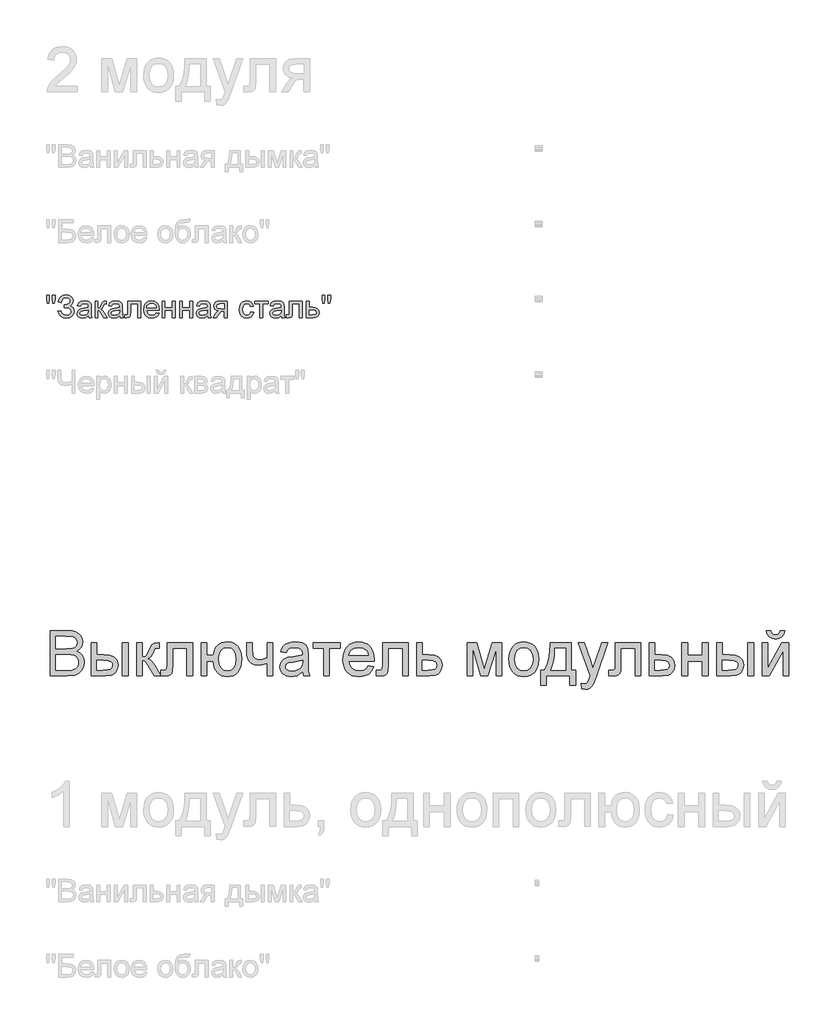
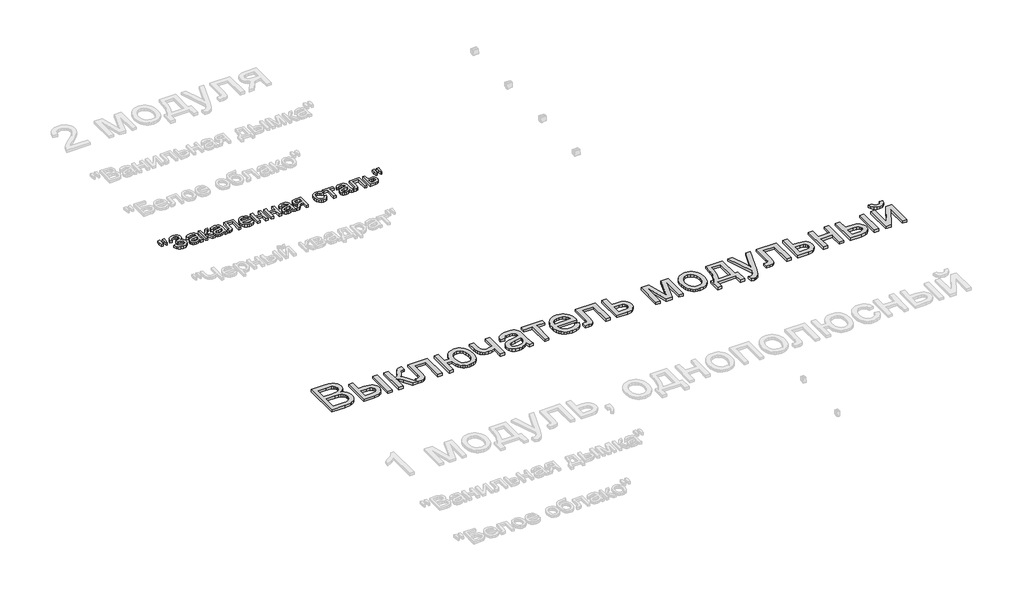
# One storey, part 39 of 168: 2 proxies.
"""IFC4 building model written with IfcOpenShell, lengths in millimetres."""

from ifc_helpers import new_model, si_unit, origin, origin_with_axes, place, context, project, spatial, polyline, outline, extrude, element, save

model = new_model("IFC4")

# Units and contexts
model_context = context("Model", 3, world=origin())
ifc_project = project(units=[si_unit("LENGTHUNIT", "METRE", prefix="MILLI")], contexts=[model_context])

# Site, building, storey
site = spatial("IfcSite", under=ifc_project)
building = spatial("IfcBuilding", under=site)
storey = spatial("IfcBuildingStorey", under=building, Name="Этаж 01", Elevation=0.0)

# Proxies
placement = place(None, origin())
element("IfcBuildingElementProxy", 1, Name="300 мм Arial 2", ObjectType="300 мм Arial 2", at=placement, inside=storey, context=model_context, shape_type="SweptSolid", body=[
    extrude(outline(polyline([(41999.0945017, -45660.5962843), (41999.0945017, -45359.2273539), (42114.0944133, -45359.2273539), (42145.7230679, -45361.4438429), (42170.4171468, -45368.0933099), (42189.3446755, -45379.3413019), (42203.6736792, -45395.3533658), (42212.6959851, -45414.1889239), (42215.7034204, -45433.9073989), (42213.1742317, -45452.0531783), (42205.5866656, -45469.1137058), (42192.8855397, -45484.0405178), (42175.0156718, -45495.7851505), (42196.3620245, -45506.9319749), (42212.1349651, -45523.8913349), (42221.8746409, -45545.5411903), (42225.1211995, -45570.7595011), (42222.9047105, -45591.7747601), (42216.2552434, -45611.2633087), (42206.3316266, -45627.8363926), (42194.2926883, -45640.1052572), (42179.5498173, -45648.9896074), (42161.5144025, -45655.4091482), (42113.2114966, -45660.5962843), (41999.0945017, -45660.5962843)]), holes=[polyline([(42036.765618, -45481.6584818), (42105.5595511, -45481.6584818), (42145.7322649, -45478.4211203), (42159.7945542, -45472.838511), (42169.902112, -45464.4783927), (42175.9997561, -45453.469524), (42178.0323041, -45439.9406636), (42176.1377118, -45426.8072764), (42170.453935, -45415.3661463), (42161.238491, -45406.4358109), (42148.7488973, -45400.8348075), (42100.3356267, -45396.8984702), (42036.765618, -45396.8984702), (42036.765618, -45481.6584818)]), polyline([(42036.765618, -45622.925168), (42114.020837, -45622.925168), (42141.9798686, -45621.45364), (42165.6346809, -45613.2498715), (42181.3064539, -45596.5112407), (42185.9141759, -45584.6838346), (42187.4500832, -45571.1273831), (42185.6474614, -45555.3820337), (42180.2395961, -45541.8439763), (42170.7942259, -45531.2581718), (42156.8790894, -45524.3695815), (42137.1698115, -45520.589594), (42110.342017, -45519.3295982), (42036.765618, -45519.3295982), (42036.765618, -45622.925168)])]), origin_with_axes(), (0.0, 0.0, 1.0), 20.0),
    extrude(outline(polyline([(42479.4012346, -45439.278476), (42517.0723509, -45439.278476), (42517.0723509, -45660.5962843), (42479.4012346, -45660.5962843), (42479.4012346, -45439.278476)])), origin_with_axes(), (0.0, 0.0, 1.0), 20.0),
    extrude(outline(polyline([(42272.2100949, -45439.278476), (42309.8812112, -45439.278476), (42309.8812112, -45519.3295982), (42356.4550718, -45519.3295982), (42396.7105591, -45524.0476847), (42412.9272573, -45529.945293), (42426.5365919, -45538.2019445), (42437.304038, -45548.5325308), (42444.995071, -45560.6519433), (42449.6096907, -45574.5601819), (42451.1478973, -45590.2572468), (42445.9883523, -45617.2138), (42430.5097174, -45639.9581044), (42418.6478223, -45648.9873081), (42403.700317, -45655.4367393), (42364.5484757, -45660.5962843), (42272.2100949, -45660.5962843), (42272.2100949, -45439.278476)]), holes=[polyline([(42309.8812112, -45622.925168), (42348.5823971, -45622.925168), (42378.5831738, -45620.9478023), (42398.540772, -45615.0157051), (42409.7427788, -45604.8897532), (42413.476781, -45590.3308232), (42410.708469, -45578.0251705), (42402.403533, -45567.1542575), (42384.6440297, -45559.5391002), (42353.5120158, -45557.0007145), (42309.8812112, -45557.0007145), (42309.8812112, -45622.925168)])]), origin_with_axes(), (0.0, 0.0, 1.0), 20.0),
    extrude(outline(polyline([(42776.0612755, -45439.278476), (42945.5812988, -45439.278476), (42945.5812988, -45660.3755551), (42907.9101825, -45660.3755551), (42907.9101825, -45476.9495923), (42813.7323918, -45476.9495923), (42813.7323918, -45582.5317249), (42811.194006, -45631.2393011), (42806.4391312, -45642.2665639), (42797.2512784, -45651.8039046), (42783.3085508, -45658.3981894), (42764.2890516, -45660.5962843), (42733.6812696, -45658.6832979), (42733.6812696, -45622.925168), (42750.530265, -45622.925168), (42767.5632014, -45620.6075114), (42774.3690183, -45613.2498715), (42776.0612755, -45580.3980094), (42776.0612755, -45439.278476)])), origin_with_axes(), (0.0, 0.0, 1.0), 20.0),
    extrude(outline(polyline([(42573.5790253, -45439.278476), (42611.2501416, -45439.278476), (42611.2501416, -45533.4562668), (42626.5724267, -45531.7640096), (42636.4868465, -45526.6872381), (42645.2608321, -45513.4434862), (42657.1618146, -45487.2502882), (42674.3419038, -45453.2212036), (42689.498642, -45442.1479556), (42717.0530034, -45439.278476), (42724.2634906, -45439.278476), (42724.2634906, -45477.1703215), (42714.1099475, -45476.9495923), (42695.7158477, -45480.9227179), (42682.7664015, -45505.7179643), (42667.5728751, -45532.5365618), (42646.2725076, -45545.669949), (42658.2102783, -45550.9720483), (42670.0376845, -45560.3300465), (42693.361403, -45591.21374), (42733.6812696, -45660.5962843), (42690.8598054, -45660.5962843), (42651.3492791, -45592.685268), (42631.4836514, -45563.9536842), (42622.194631, -45558.7389569), (42611.2501416, -45557.0007145), (42611.2501416, -45660.5962843), (42573.5790253, -45660.5962843), (42573.5790253, -45439.278476)])), origin_with_axes(), (0.0, 0.0, 1.0), 20.0),
    extrude(outline(polyline([(43002.0879733, -45439.278476), (43039.7590896, -45439.278476), (43039.7590896, -45524.0384877), (43082.1390955, -45524.0384877), (43091.9155595, -45485.6316074), (43100.4389255, -45470.2909282), (43111.3857141, -45457.525423), (43124.4478242, -45447.4822445), (43139.3171546, -45440.3085456), (43174.4774762, -45434.5695865), (43204.0275975, -45437.9449038), (43226.606355, -45448.0708557), (43244.0255674, -45464.1197077), (43258.0970538, -45485.2637254), (43267.3952712, -45513.0756042), (43270.494677, -45549.1280398), (43268.892091, -45575.9834254), (43264.0843332, -45599.3807203), (43256.0714035, -45619.3199244), (43244.8533019, -45635.8010378), (43230.8898809, -45648.7090973), (43214.6409931, -45657.9291398), (43196.1066383, -45663.4611653), (43175.2868166, -45665.3051738), (43155.8833407, -45663.5761285), (43138.5078142, -45658.3889923), (43123.1602372, -45649.7437654), (43109.8406097, -45637.6404478), (43098.8800255, -45622.5204978), (43090.6095784, -45604.8253738), (43082.1390955, -45561.709604), (43039.7590896, -45561.709604), (43039.7590896, -45660.5962843), (43002.0879733, -45660.5962843), (43002.0879733, -45439.278476)]), holes=[polyline([(43176.9054974, -45472.2407028), (43152.8920002, -45477.1151392), (43134.8565854, -45491.7384485), (43123.5718052, -45515.1541375), (43119.8102118, -45546.405713), (43123.5993963, -45582.8168335), (43134.96695, -45608.0259472), (43152.680468, -45622.7320299), (43175.5075458, -45627.6340575), (43198.399003, -45623.0999119), (43216.7471175, -45609.4974752), (43228.8044499, -45585.7966776), (43232.8235607, -45550.9674497), (43229.3470758, -45516.5244979), (43218.9176213, -45491.9223895), (43201.4616206, -45477.1611245), (43176.9054974, -45472.2407028)])]), origin_with_axes(), (0.0, 0.0, 1.0), 20.0),
    extrude(outline(polyline([(43303.4569038, -45439.278476), (43341.1280201, -45439.278476), (43341.1280201, -45481.7320582), (43344.1814406, -45521.5368901), (43349.3777738, -45533.1067789), (43358.8599322, -45543.094775), (43371.9565313, -45549.9925625), (43387.9961862, -45552.2918249), (43411.0439932, -45549.4407395), (43440.0147004, -45540.8874831), (43440.0147004, -45439.278476), (43477.6858167, -45439.278476), (43477.6858167, -45660.5962843), (43440.0147004, -45660.5962843), (43440.0147004, -45577.013495), (43407.861814, -45586.7255797), (43377.9162196, -45589.9629412), (43355.135127, -45586.5876239), (43335.2051199, -45576.461672), (43319.6713027, -45561.4428896), (43310.0787797, -45543.3890806), (43305.1123727, -45522.8428712), (43303.4569038, -45500.3468872), (43303.4569038, -45439.278476)])), origin_with_axes(), (0.0, 0.0, 1.0), 20.0),
    extrude(outline(polyline([(43675.4591773, -45632.3429471), (43657.4605507, -45647.7755968), (43638.9284952, -45657.8739575), (43619.4399465, -45663.4473698), (43598.5718403, -45665.3051738), (43567.0903386, -45660.8354076), (43543.8677876, -45647.4261089), (43529.5479809, -45627.0638404), (43524.7747121, -45601.7351651), (43526.5773338, -45586.1185744), (43531.9851992, -45571.9367235), (43540.3269234, -45559.7966176), (43550.9311219, -45550.3052621), (43577.308261, -45537.9444271), (43609.9026057, -45532.2790444), (43648.4198506, -45526.3193561), (43675.2384481, -45519.3295982), (43675.4591773, -45510.9418887), (43672.8656092, -45494.1296815), (43665.084905, -45483.1300098), (43647.6840866, -45474.9630295), (43623.4406632, -45472.2407028), (43600.9998615, -45474.0525216), (43585.3280885, -45479.4879781), (43574.6411165, -45489.5403536), (43567.1547179, -45505.2029295), (43529.4836016, -45500.49404), (43536.0227041, -45479.8926483), (43545.780774, -45463.7058405), (43559.6683193, -45451.3266113), (43578.5958479, -45442.1479556), (43601.7448225, -45436.4641787), (43628.2967055, -45434.5695865), (43653.7633366, -45436.2434495), (43673.9508611, -45441.2650388), (43689.1719786, -45448.8158167), (43699.739389, -45458.077246), (43706.747541, -45469.5275731), (43711.2908836, -45483.6450446), (43713.1302936, -45516.6072714), (43713.1302936, -45563.4754376), (43715.04328, -45628.9216445), (43722.5480727, -45660.5962843), (43684.8769564, -45660.5962843), (43675.4591773, -45632.3429471)]), holes=[polyline([(43675.4591773, -45557.0007145), (43614.6850717, -45568.5522091), (43582.2746679, -45574.6590502), (43567.5961763, -45584.5918641), (43562.4458284, -45599.0864147), (43565.2509286, -45610.2884215), (43573.6662292, -45619.4670772), (43587.5077893, -45625.5923125), (43606.5916678, -45627.6340575), (43626.8251775, -45625.3807803), (43644.7042425, -45618.6209487), (43659.1987931, -45608.6605436), (43669.2787598, -45596.8055463), (43673.748526, -45584.5918641), (43675.2384481, -45567.6692923), (43675.4591773, -45557.0007145)])]), origin_with_axes(), (0.0, 0.0, 1.0), 20.0),
    extrude(outline(polyline([(43746.0925204, -45439.278476), (43925.0303228, -45439.278476), (43925.0303228, -45476.9495923), (43854.3969797, -45476.9495923), (43854.3969797, -45660.5962843), (43816.7258634, -45660.5962843), (43816.7258634, -45476.9495923), (43746.0925204, -45476.9495923), (43746.0925204, -45439.278476)])), origin_with_axes(), (0.0, 0.0, 1.0), 20.0),
    extrude(outline(polyline([(44112.9444459, -45594.6718308), (44149.8797983, -45599.3807203), (44136.5716671, -45627.2109932), (44115.3356789, -45648.0147201), (44086.6500803, -45660.9825604), (44050.993118, -45665.3051738), (44027.6188157, -45663.440472), (44006.7920962, -45657.8463664), (43988.5129596, -45648.5228571), (43972.7814058, -45635.469944), (43960.1308637, -45619.0509107), (43951.0947622, -45599.6290406), (43945.6731013, -45577.2043338), (43943.865881, -45551.7767901), (43945.6914954, -45525.487023), (43951.1683386, -45502.3150559), (43960.2964106, -45482.2608886), (43973.0757114, -45465.3245213), (43988.7658785, -45451.8692373), (44006.6265493, -45442.2583202), (44026.657724, -45436.4917699), (44048.8594024, -45434.5695865), (44070.3460102, -45436.4871714), (44089.7770773, -45442.2399261), (44107.1526038, -45451.8278506), (44122.4725896, -45465.2509449), (44134.9782782, -45482.150524), (44143.9109129, -45502.1679031), (44149.2704937, -45525.303082), (44151.0570206, -45551.5560609), (44150.8362914, -45561.709604), (43981.5369973, -45561.709604), (43988.0577056, -45589.9077589), (44003.2052468, -45610.6379094), (44025.0666343, -45623.3850205), (44051.7288819, -45627.6340575), (44071.7784507, -45625.6658889), (44088.6642343, -45619.7613828), (44102.3862327, -45609.5526575), (44112.9444459, -45594.6718308)]), holes=[polyline([(43981.5369973, -45524.0384877), (44113.3859043, -45524.0384877), (44108.2907387, -45504.1360718), (44098.3027425, -45489.8990385), (44076.3401874, -45476.6552867), (44048.7122496, -45472.2407028), (44023.3191949, -45475.7631729), (44002.32233, -45486.3305832), (43987.7266118, -45502.8024995), (43981.5369973, -45524.0384877)])]), origin_with_axes(), (0.0, 0.0, 1.0), 20.0),
    extrude(outline(polyline([(44207.5636951, -45439.278476), (44377.0837185, -45439.278476), (44377.0837185, -45660.3755551), (44339.4126022, -45660.3755551), (44339.4126022, -45476.9495923), (44245.2348114, -45476.9495923), (44245.2348114, -45582.5317249), (44242.6964256, -45631.2393011), (44237.9415509, -45642.2665639), (44228.753698, -45651.8039046), (44214.8109704, -45658.3981894), (44195.7914713, -45660.5962843), (44165.1836893, -45658.6832979), (44165.1836893, -45622.925168), (44182.0326846, -45622.925168), (44199.065621, -45620.6075114), (44205.8714379, -45613.2498715), (44207.5636951, -45580.3980094), (44207.5636951, -45439.278476)])), origin_with_axes(), (0.0, 0.0, 1.0), 20.0),
    extrude(outline(polyline([(44433.5903929, -45439.278476), (44471.2615092, -45439.278476), (44471.2615092, -45519.3295982), (44514.6715847, -45519.3295982), (44552.3059128, -45524.0476847), (44567.4534539, -45529.945293), (44580.1545798, -45538.2019445), (44590.1977583, -45548.5325308), (44597.3714572, -45560.6519433), (44603.1104163, -45590.2572468), (44598.2267828, -45617.2138), (44583.5758824, -45639.9581044), (44572.3439852, -45648.9873081), (44558.1828277, -45655.4367393), (44521.0727314, -45660.5962843), (44433.5903929, -45660.5962843), (44433.5903929, -45439.278476)]), holes=[polyline([(44471.2615092, -45622.925168), (44506.431028, -45622.925168), (44533.718675, -45620.9478023), (44551.8644544, -45615.0157051), (44562.0455886, -45604.8897532), (44565.4393, -45590.3308232), (44562.9285054, -45578.0251705), (44555.3961215, -45567.1542575), (44539.255299, -45559.5391002), (44510.9191883, -45557.0007145), (44471.2615092, -45557.0007145), (44471.2615092, -45622.925168)])]), origin_with_axes(), (0.0, 0.0, 1.0), 20.0),
    extrude(outline(polyline([(44767.9215502, -45439.278476), (44832.7423577, -45439.278476), (44882.7007327, -45616.4504449), (44936.5586567, -45439.278476), (44998.6571375, -45439.278476), (44998.6571375, -45660.5962843), (44960.9860212, -45660.5962843), (44960.9860212, -45482.3942458), (44906.8337915, -45660.5962843), (44857.3904514, -45660.5962843), (44805.5926665, -45473.8593835), (44805.5926665, -45660.5962843), (44767.9215502, -45660.5962843), (44767.9215502, -45439.278476)])), origin_with_axes(), (0.0, 0.0, 1.0), 20.0),
    extrude(outline(polyline([(45045.7460329, -45549.9373802), (45047.7831795, -45521.2747742), (45053.8946191, -45496.5760968), (45064.0803518, -45475.8413478), (45078.3403777, -45459.0705273), (45092.6969725, -45448.3513657), (45108.5434895, -45440.6948217), (45125.8799285, -45436.1008953), (45144.7062896, -45434.5695865), (45165.4893231, -45436.4342883), (45184.2811952, -45442.0283939), (45201.0819061, -45451.3519032), (45215.8914557, -45464.4048163), (45227.9786785, -45480.7456746), (45236.6124091, -45499.93302), (45241.7926474, -45521.9668522), (45243.5193935, -45546.8471714), (45240.465973, -45584.9045638), (45231.3057113, -45613.8752709), (45216.3053229, -45635.5711116), (45195.7315223, -45651.8039046), (45171.2949608, -45661.9298565), (45144.7062896, -45665.3051738), (45123.6197535, -45663.4473698), (45104.6531374, -45657.8739575), (45087.8064413, -45648.5849372), (45073.0796652, -45635.5803086), (45061.121201, -45619.0808011), (45052.579441, -45599.3071439), (45047.4543849, -45576.2593369), (45045.7460329, -45549.9373802)]), holes=[polyline([(45083.4171492, -45549.8638038), (45087.7765509, -45583.9572677), (45100.8547558, -45608.2466764), (45120.5364425, -45622.7872122), (45144.7062896, -45627.6340575), (45168.7657721, -45622.7596211), (45188.4106706, -45608.1363118), (45201.4888756, -45583.5250063), (45205.8482772, -45548.6865814), (45201.4612844, -45515.5863989), (45188.300306, -45491.6280839), (45168.6278164, -45477.0875481), (45144.7062896, -45472.2407028), (45120.5364425, -45477.069154), (45100.8547558, -45491.5545075), (45087.7765509, -45515.7887339), (45083.4171492, -45549.8638038)])]), origin_with_axes(), (0.0, 0.0, 1.0), 20.0),
    extrude(outline(polyline([(45318.8616261, -45439.278476), (45460.1283123, -45439.278476), (45460.1283123, -45622.925168), (45488.3816495, -45622.925168), (45488.3816495, -45721.8118483), (45450.7105332, -45721.8118483), (45450.7105332, -45660.5962843), (45295.3171784, -45660.5962843), (45295.3171784, -45721.8118483), (45257.6460621, -45721.8118483), (45257.6460621, -45622.925168), (45281.1905098, -45622.925168), (45298.3062197, -45591.9954892), (45310.2899756, -45551.0778143), (45317.1417778, -45500.1721433), (45318.8616261, -45439.278476)]), holes=[polyline([(45351.8238529, -45476.9495923), (45348.7336441, -45523.0727975), (45342.994685, -45562.7764618), (45334.6069755, -45596.0605853), (45323.5705157, -45622.925168), (45422.457196, -45622.925168), (45422.457196, -45476.9495923), (45351.8238529, -45476.9495923)])]), origin_with_axes(), (0.0, 0.0, 1.0), 20.0),
    extrude(outline(polyline([(45530.7616554, -45745.356296), (45526.0527658, -45709.0831313), (45545.1826296, -45712.3940692), (45563.0616945, -45708.2370027), (45574.024578, -45696.6487198), (45584.3252739, -45668.9104174), (45587.2683298, -45659.7869439), (45507.2172077, -45439.278476), (45546.9484631, -45439.278476), (45589.4020454, -45562.1510624), (45604.1909016, -45611.3000969), (45618.9797578, -45567.8900215), (45662.6105624, -45439.278476), (45702.0475123, -45439.278476), (45625.0130225, -45665.893785), (45605.000242, -45715.0428196), (45594.7547284, -45730.7329867), (45583.1480515, -45741.6038996), (45569.6651763, -45747.9498641), (45553.7910683, -45750.0651855), (45530.7616554, -45745.356296)])), origin_with_axes(), (0.0, 0.0, 1.0), 20.0),
    extrude(outline(polyline([(45752.0794637, -45439.278476), (45921.599487, -45439.278476), (45921.599487, -45660.3755551), (45883.9283707, -45660.3755551), (45883.9283707, -45476.9495923), (45789.75058, -45476.9495923), (45789.75058, -45582.5317249), (45787.2121942, -45631.2393011), (45782.4573194, -45642.2665639), (45773.2694666, -45651.8039046), (45759.326739, -45658.3981894), (45740.3072398, -45660.5962843), (45709.6994578, -45658.6832979), (45709.6994578, -45622.925168), (45726.5484532, -45622.925168), (45743.5813896, -45620.6075114), (45750.3872065, -45613.2498715), (45752.0794637, -45580.3980094), (45752.0794637, -45439.278476)])), origin_with_axes(), (0.0, 0.0, 1.0), 20.0),
    extrude(outline(polyline([(45978.1061615, -45439.278476), (46015.7772778, -45439.278476), (46015.7772778, -45519.3295982), (46059.1873532, -45519.3295982), (46096.8216813, -45524.0476847), (46111.9692225, -45529.945293), (46124.6703484, -45538.2019445), (46134.7135268, -45548.5325308), (46141.8872257, -45560.6519433), (46147.6261849, -45590.2572468), (46142.7425514, -45617.2138), (46128.0916509, -45639.9581044), (46116.8597538, -45648.9873081), (46102.6985962, -45655.4367393), (46065.5884999, -45660.5962843), (45978.1061615, -45660.5962843), (45978.1061615, -45439.278476)]), holes=[polyline([(46015.7772778, -45622.925168), (46050.9467965, -45622.925168), (46078.2344435, -45620.9478023), (46096.3802229, -45615.0157051), (46106.5613572, -45604.8897532), (46109.9550686, -45590.3308232), (46107.4442739, -45578.0251705), (46099.9118901, -45567.1542575), (46083.7710676, -45559.5391002), (46055.4349569, -45557.0007145), (46015.7772778, -45557.0007145), (46015.7772778, -45622.925168)])]), origin_with_axes(), (0.0, 0.0, 1.0), 20.0),
    extrude(outline(polyline([(46194.7150803, -45439.278476), (46232.3861966, -45439.278476), (46232.3861966, -45524.0384877), (46331.2728769, -45524.0384877), (46331.2728769, -45439.278476), (46368.9439932, -45439.278476), (46368.9439932, -45660.5962843), (46331.2728769, -45660.5962843), (46331.2728769, -45561.709604), (46232.3861966, -45561.709604), (46232.3861966, -45660.5962843), (46194.7150803, -45660.5962843), (46194.7150803, -45439.278476)])), origin_with_axes(), (0.0, 0.0, 1.0), 20.0),
    extrude(outline(polyline([(46425.4506676, -45439.278476), (46463.1217839, -45439.278476), (46463.1217839, -45519.3295982), (46509.6956445, -45519.3295982), (46549.9511318, -45524.0476847), (46566.16783, -45529.945293), (46579.7771646, -45538.2019445), (46590.5446107, -45548.5325308), (46598.2356437, -45560.6519433), (46602.8502635, -45574.5601819), (46604.3884701, -45590.2572468), (46599.2289251, -45617.2138), (46583.7502901, -45639.9581044), (46571.8883951, -45648.9873081), (46556.9408898, -45655.4367393), (46517.7890484, -45660.5962843), (46425.4506676, -45660.5962843), (46425.4506676, -45439.278476)]), holes=[polyline([(46463.1217839, -45622.925168), (46501.8229698, -45622.925168), (46531.8237465, -45620.9478023), (46551.7813448, -45615.0157051), (46562.9833515, -45604.8897532), (46566.7173538, -45590.3308232), (46563.9490418, -45578.0251705), (46555.6441057, -45567.1542575), (46537.8846024, -45559.5391002), (46506.7525886, -45557.0007145), (46463.1217839, -45557.0007145), (46463.1217839, -45622.925168)])]), origin_with_axes(), (0.0, 0.0, 1.0), 20.0),
    extrude(outline(polyline([(46632.6418073, -45439.278476), (46670.3129236, -45439.278476), (46670.3129236, -45660.5962843), (46632.6418073, -45660.5962843), (46632.6418073, -45439.278476)])), origin_with_axes(), (0.0, 0.0, 1.0), 20.0),
    extrude(outline(polyline([(46726.8195981, -45439.278476), (46764.4907144, -45439.278476), (46764.4907144, -45608.0627354), (46857.0498244, -45439.278476), (46905.7574005, -45439.278476), (46905.7574005, -45660.5962843), (46868.0862842, -45660.5962843), (46868.0862842, -45492.8420945), (46776.1157854, -45660.5962843), (46726.8195981, -45660.5962843), (46726.8195981, -45439.278476)])), origin_with_axes(), (0.0, 0.0, 1.0), 20.0),
    extrude(outline(polyline([(46849.2507261, -45359.2273539), (46877.5040633, -45359.2273539), (46871.4248133, -45383.3512157), (46859.2203281, -45401.1291131), (46841.4424307, -45412.0827995), (46818.6429441, -45415.7340283), (46793.9028799, -45412.1103907), (46774.7178338, -45401.2394777), (46761.6028407, -45383.4891714), (46755.0729353, -45359.2273539), (46783.3262725, -45359.2273539), (46787.2993981, -45371.6341741), (46793.921274, -45380.454145), (46803.2286885, -45385.7240546), (46815.2584297, -45387.4806911), (46828.8332753, -45385.7792369), (46838.6557246, -45380.6748742), (46845.2776005, -45371.9100856), (46849.2507261, -45359.2273539)])), origin_with_axes(), (0.0, 0.0, 1.0), 20.0),
])
element("IfcBuildingElementProxy", 2, Name="150", ObjectType="150", at=placement, inside=storey, context=model_context, shape_type="SweptSolid", body=[
    extrude(outline(polyline([(41980.1485789, -43186.1059817), (41975.550054, -43157.0065159), (41975.550054, -43131.9537521), (41994.3856121, -43131.9537521), (41994.3856121, -43157.0065159), (41990.2653338, -43186.1059817), (41980.1485789, -43186.1059817)])), origin_with_axes(), (0.0, 0.0, 1.0), 20.0),
    extrude(outline(polyline([(42017.7093306, -43186.1059817), (42013.2211703, -43157.0065159), (42013.2211703, -43131.9537521), (42032.0567284, -43131.9537521), (42032.0567284, -43157.0065159), (42027.6421445, -43186.1059817), (42017.7093306, -43186.1059817)])), origin_with_axes(), (0.0, 0.0, 1.0), 20.0),
    extrude(outline(polyline([(42050.8922866, -43240.2582114), (42069.7278447, -43235.5493219), (42081.2977335, -43255.9483785), (42092.2284273, -43263.6049226), (42106.2217387, -43266.1571039), (42120.398991, -43264.239519), (42131.2193202, -43258.4867643), (42138.0757209, -43250.0208799), (42140.3611878, -43239.9639058), (42137.8641888, -43229.4286852), (42130.3731916, -43221.2938946), (42118.5779752, -43216.0929629), (42103.1683181, -43214.359319), (42093.2722924, -43214.359319), (42093.2722924, -43195.5237608), (42114.591054, -43193.9970505), (42127.6324708, -43186.1979522), (42133.2978535, -43171.9425249), (42131.4124583, -43163.0719703), (42125.7562726, -43155.4430174), (42116.8811195, -43150.1869034), (42105.3388219, -43148.4348654), (42086.1169876, -43153.8243367), (42075.117316, -43168.1165522), (42072.0822895, -43181.3970922), (42053.2467313, -43176.6882027), (42059.0983543, -43156.0868109), (42069.7002536, -43141.3715311), (42085.0524291, -43132.5423632), (42105.1548809, -43129.5993073), (42124.5468605, -43132.6573264), (42139.4598769, -43141.8313836), (42148.965028, -43155.0981281), (42152.1334117, -43170.4342088), (42147.2037929, -43189.0766289), (42132.4149367, -43202.9917653), (42142.8903765, -43207.815618), (42151.5080123, -43215.9596057), (42157.2745625, -43226.7247525), (42159.196746, -43239.4120828), (42155.508729, -43257.2497611), (42144.444678, -43271.9144571), (42127.2921799, -43281.7231108), (42105.3388219, -43284.992662), (42086.2365493, -43282.1967589), (42070.7947025, -43273.8090494), (42059.0132816, -43259.8295336), (42050.8922866, -43240.2582114)])), origin_with_axes(), (0.0, 0.0, 1.0), 20.0),
    extrude(outline(polyline([(42253.3745367, -43268.5115487), (42235.1091957, -43281.2770539), (42214.9308682, -43284.992662), (42199.1901174, -43282.7577789), (42187.5788419, -43276.0531296), (42180.4189386, -43265.8719954), (42178.0323041, -43253.2076577), (42181.6375477, -43238.3084369), (42191.110509, -43227.4927062), (42204.2990786, -43221.3122887), (42220.596251, -43218.4795973), (42253.2641721, -43212.0048742), (42253.3745367, -43207.8110195), (42252.0777527, -43199.4049159), (42248.1874006, -43193.90508), (42239.4869914, -43189.8215899), (42227.3652797, -43188.4604265), (42208.3089923, -43192.0840642), (42199.222307, -43204.9415399), (42180.3867489, -43202.5870951), (42188.5353351, -43184.1929954), (42204.9428721, -43173.4140529), (42229.7933008, -43169.6248684), (42252.6203786, -43172.9725945), (42265.5146426, -43181.3786981), (42271.2903899, -43194.1625974), (42272.2100949, -43210.6437108), (42272.2100949, -43234.0777939), (42273.1665881, -43266.8008974), (42276.9189844, -43282.6382173), (42258.0834263, -43282.6382173), (42253.3745367, -43268.5115487)]), holes=[polyline([(42253.3745367, -43230.8404324), (42222.9874839, -43236.6161797), (42206.782282, -43239.6696002), (42199.4430362, -43244.6360072), (42196.8678623, -43251.8832825), (42202.4780627, -43262.0736138), (42218.940782, -43266.1571039), (42237.9970693, -43261.6505495), (42250.284328, -43250.7428483), (42253.2641721, -43236.1747213), (42253.3745367, -43230.8404324)])]), origin_with_axes(), (0.0, 0.0, 1.0), 20.0),
    extrude(outline(polyline([(42298.1089873, -43171.9793131), (42316.9445455, -43171.9793131), (42316.9445455, -43219.0682085), (42329.5628979, -43215.6836942), (42339.900382, -43195.9652192), (42348.4904266, -43178.9506769), (42356.0687957, -43173.4140529), (42369.8459764, -43171.9793131), (42373.4512199, -43171.9793131), (42373.4512199, -43190.9252359), (42368.3744484, -43190.8148713), (42359.1773985, -43192.8014341), (42352.7026754, -43205.1990573), (42345.1059122, -43218.608356), (42334.4557285, -43225.1750496), (42346.3383169, -43232.5050984), (42358.0001762, -43247.9469451), (42378.1601095, -43282.6382173), (42356.7493774, -43282.6382173), (42336.9941142, -43248.6827091), (42327.0613004, -43234.3169172), (42316.9445455, -43230.8404324), (42316.9445455, -43282.6382173), (42298.1089873, -43282.6382173), (42298.1089873, -43171.9793131)])), origin_with_axes(), (0.0, 0.0, 1.0), 20.0),
    extrude(outline(polyline([(42460.5656764, -43268.5115487), (42442.3003353, -43281.2770539), (42422.1220079, -43284.992662), (42406.381257, -43282.7577789), (42394.7699816, -43276.0531296), (42387.6100782, -43265.8719954), (42385.2234438, -43253.2076577), (42388.8286873, -43238.3084369), (42398.3016487, -43227.4927062), (42411.4902183, -43221.3122887), (42427.7873906, -43218.4795973), (42460.4553118, -43212.0048742), (42460.5656764, -43207.8110195), (42459.2688924, -43199.4049159), (42455.3785403, -43193.90508), (42446.6781311, -43189.8215899), (42434.5564193, -43188.4604265), (42415.500132, -43192.0840642), (42406.4134467, -43204.9415399), (42387.5778886, -43202.5870951), (42395.7264748, -43184.1929954), (42412.1340117, -43173.4140529), (42436.9844405, -43169.6248684), (42459.8115183, -43172.9725945), (42472.7057822, -43181.3786981), (42478.4815296, -43194.1625974), (42479.4012346, -43210.6437108), (42479.4012346, -43234.0777939), (42480.3577277, -43266.8008974), (42484.1101241, -43282.6382173), (42465.2745659, -43282.6382173), (42460.5656764, -43268.5115487)]), holes=[polyline([(42460.5656764, -43230.8404324), (42430.1786236, -43236.6161797), (42413.9734217, -43239.6696002), (42406.6341759, -43244.6360072), (42404.0590019, -43251.8832825), (42409.6692024, -43262.0736138), (42426.1319217, -43266.1571039), (42445.188209, -43261.6505495), (42457.4754676, -43250.7428483), (42460.4553118, -43236.1747213), (42460.5656764, -43230.8404324)])]), origin_with_axes(), (0.0, 0.0, 1.0), 20.0),
    extrude(outline(polyline([(42514.7179061, -43171.9793131), (42599.4779178, -43171.9793131), (42599.4779178, -43282.5278527), (42580.6423596, -43282.5278527), (42580.6423596, -43190.8148713), (42533.5534643, -43190.8148713), (42533.5534643, -43243.6059376), (42532.2842714, -43267.9597257), (42525.3129076, -43278.2420274), (42508.8317942, -43282.6382173), (42493.5279032, -43281.6817241), (42493.5279032, -43263.8026591), (42501.9524009, -43263.8026591), (42510.4688691, -43262.6438308), (42513.8717775, -43258.9650109), (42514.7179061, -43242.5390798), (42514.7179061, -43171.9793131)])), origin_with_axes(), (0.0, 0.0, 1.0), 20.0),
    extrude(outline(polyline([(42705.2072032, -43249.6759905), (42723.6748794, -43252.0304353), (42717.0208138, -43265.9455717), (42706.4028197, -43276.3474352), (42692.0600204, -43282.8313553), (42674.2315392, -43284.992662), (42652.1310283, -43281.2632583), (42635.1256831, -43270.0750471), (42624.2823613, -43252.1545955), (42620.6679207, -43228.2284702), (42624.3191495, -43203.4976031), (42635.2728359, -43185.0023358), (42652.0482549, -43173.4692352), (42673.1646814, -43169.6248684), (42693.6235189, -43173.4600382), (42709.971275, -43184.9655476), (42720.6904367, -43203.4240267), (42724.2634906, -43228.1181056), (42724.153126, -43233.1948771), (42639.5034789, -43233.1948771), (42642.763833, -43247.2939546), (42650.3376036, -43257.6590298), (42661.2682974, -43264.0325854), (42674.5994212, -43266.1571039), (42693.0670974, -43262.2207665), (42705.2072032, -43249.6759905)]), holes=[polyline([(42639.5034789, -43214.359319), (42705.4279324, -43214.359319), (42702.8803496, -43204.408111), (42697.8863515, -43197.2895944), (42686.9050739, -43190.6677185), (42673.091105, -43188.4604265), (42660.3945777, -43190.2216616), (42649.8961452, -43195.5053667), (42642.5982861, -43203.7413249), (42639.5034789, -43214.359319)])]), origin_with_axes(), (0.0, 0.0, 1.0), 20.0),
    extrude(outline(polyline([(42743.0990487, -43171.9793131), (42761.9346069, -43171.9793131), (42761.9346069, -43214.359319), (42811.377947, -43214.359319), (42811.377947, -43171.9793131), (42830.2135052, -43171.9793131), (42830.2135052, -43282.6382173), (42811.377947, -43282.6382173), (42811.377947, -43233.1948771), (42761.9346069, -43233.1948771), (42761.9346069, -43282.6382173), (42743.0990487, -43282.6382173), (42743.0990487, -43171.9793131)])), origin_with_axes(), (0.0, 0.0, 1.0), 20.0),
    extrude(outline(polyline([(42858.4668424, -43171.9793131), (42877.3024005, -43171.9793131), (42877.3024005, -43214.359319), (42926.7457407, -43214.359319), (42926.7457407, -43171.9793131), (42945.5812988, -43171.9793131), (42945.5812988, -43282.6382173), (42926.7457407, -43282.6382173), (42926.7457407, -43233.1948771), (42877.3024005, -43233.1948771), (42877.3024005, -43282.6382173), (42858.4668424, -43282.6382173), (42858.4668424, -43171.9793131)])), origin_with_axes(), (0.0, 0.0, 1.0), 20.0),
    extrude(outline(polyline([(43044.4679792, -43268.5115487), (43026.2026381, -43281.2770539), (43006.0243107, -43284.992662), (42990.2835598, -43282.7577789), (42978.6722843, -43276.0531296), (42971.512381, -43265.8719954), (42969.1257465, -43253.2076577), (42972.7309901, -43238.3084369), (42982.2039515, -43227.4927062), (42995.392521, -43221.3122887), (43011.6896934, -43218.4795973), (43044.3576146, -43212.0048742), (43044.4679792, -43207.8110195), (43043.1711951, -43199.4049159), (43039.280843, -43193.90508), (43030.5804338, -43189.8215899), (43018.4587221, -43188.4604265), (42999.4024347, -43192.0840642), (42990.3157495, -43204.9415399), (42971.4801913, -43202.5870951), (42979.6287775, -43184.1929954), (42996.0363145, -43173.4140529), (43020.8867433, -43169.6248684), (43043.7138211, -43172.9725945), (43056.608085, -43181.3786981), (43062.3838323, -43194.1625974), (43063.3035373, -43210.6437108), (43063.3035373, -43234.0777939), (43064.2600305, -43266.8008974), (43068.0124268, -43282.6382173), (43049.1768687, -43282.6382173), (43044.4679792, -43268.5115487)]), holes=[polyline([(43044.4679792, -43230.8404324), (43014.0809264, -43236.6161797), (42997.8757245, -43239.6696002), (42990.5364787, -43244.6360072), (42987.9613047, -43251.8832825), (42993.5715051, -43262.0736138), (43010.0342244, -43266.1571039), (43029.0905118, -43261.6505495), (43041.3777704, -43250.7428483), (43044.3576146, -43236.1747213), (43044.4679792, -43230.8404324)])]), origin_with_axes(), (0.0, 0.0, 1.0), 20.0),
    extrude(outline(polyline([(43173.9624415, -43171.9793131), (43173.9624415, -43282.6382173), (43155.1268833, -43282.6382173), (43155.1268833, -43240.2582114), (43144.8629756, -43240.2582114), (43130.8834598, -43242.6494444), (43117.7500726, -43258.7258876), (43102.7404872, -43282.6382173), (43080.9618731, -43282.6382173), (43099.8710076, -43252.3983173), (43108.2219289, -43241.5457984), (43115.9106626, -43236.7265443), (43103.0347928, -43232.7810099), (43093.9848957, -43225.2854142), (43088.6322127, -43215.3158122), (43086.847985, -43203.9482585), (43089.2852032, -43191.0539946), (43096.5968579, -43180.8452692), (43108.5254316, -43174.1958022), (43124.8134069, -43171.9793131), (43173.9624415, -43171.9793131)]), holes=[polyline([(43155.1268833, -43190.8148713), (43130.2948486, -43190.8148713), (43117.4695626, -43191.9047217), (43110.1900976, -43195.1742729), (43105.6835431, -43205.3829983), (43107.3436107, -43212.5612957), (43112.3238132, -43217.5414982), (43135.8498668, -43221.4226533), (43155.1268833, -43221.4226533), (43155.1268833, -43190.8148713)])]), origin_with_axes(), (0.0, 0.0, 1.0), 20.0),
    extrude(outline(polyline([(43331.710241, -43242.6126562), (43350.5457991, -43244.967101), (43345.2942837, -43261.7195273), (43335.4258491, -43274.3792665), (43321.8693976, -43282.3393132), (43305.5538311, -43284.992662), (43285.518058, -43281.2908495), (43269.8508835, -43270.1854117), (43259.7387272, -43252.1637925), (43256.3680084, -43227.7134354), (43257.8073467, -43210.951812), (43262.1253616, -43196.4250717), (43269.391031, -43184.6942346), (43279.6733328, -43176.3203207), (43291.974387, -43171.2987314), (43305.2963137, -43169.6248684), (43321.2118085, -43171.9241308), (43333.9359271, -43178.8219182), (43343.0639991, -43189.9503486), (43348.1913544, -43204.9415399), (43329.3557962, -43207.2959847), (43320.6185988, -43193.1877102), (43305.4434665, -43188.4604265), (43293.271171, -43190.7872801), (43283.6096701, -43197.767841), (43277.3050924, -43209.7791881), (43275.2035665, -43227.1984006), (43277.2591072, -43244.8521379), (43283.4257291, -43256.9048717), (43292.9124861, -43263.8440459), (43304.9284317, -43266.1571039), (43314.6819031, -43264.7131671), (43322.678738, -43260.3813566), (43328.4958721, -43253.0513078), (43331.710241, -43242.6126562)])), origin_with_axes(), (0.0, 0.0, 1.0), 20.0),
    extrude(outline(polyline([(43357.6091334, -43171.9793131), (43447.0780347, -43171.9793131), (43447.0780347, -43190.8148713), (43411.7613631, -43190.8148713), (43411.7613631, -43282.6382173), (43392.925805, -43282.6382173), (43392.925805, -43190.8148713), (43357.6091334, -43190.8148713), (43357.6091334, -43171.9793131)])), origin_with_axes(), (0.0, 0.0, 1.0), 20.0),
    extrude(outline(polyline([(43534.1924911, -43268.5115487), (43515.9271501, -43281.2770539), (43495.7488226, -43284.992662), (43480.0080718, -43282.7577789), (43468.3967963, -43276.0531296), (43461.236893, -43265.8719954), (43458.8502585, -43253.2076577), (43462.4555021, -43238.3084369), (43471.9284634, -43227.4927062), (43485.117033, -43221.3122887), (43501.4142054, -43218.4795973), (43534.0821265, -43212.0048742), (43534.1924911, -43207.8110195), (43532.8957071, -43199.4049159), (43529.005355, -43193.90508), (43520.3049458, -43189.8215899), (43508.1832341, -43188.4604265), (43489.1269467, -43192.0840642), (43480.0402614, -43204.9415399), (43461.2047033, -43202.5870951), (43469.3532895, -43184.1929954), (43485.7608265, -43173.4140529), (43510.6112552, -43169.6248684), (43533.438333, -43172.9725945), (43546.332597, -43181.3786981), (43552.1083443, -43194.1625974), (43553.0280493, -43210.6437108), (43553.0280493, -43234.0777939), (43553.9845425, -43266.8008974), (43557.7369388, -43282.6382173), (43538.9013807, -43282.6382173), (43534.1924911, -43268.5115487)]), holes=[polyline([(43534.1924911, -43230.8404324), (43503.8054383, -43236.6161797), (43487.6002364, -43239.6696002), (43480.2609906, -43244.6360072), (43477.6858167, -43251.8832825), (43483.2960171, -43262.0736138), (43499.7587364, -43266.1571039), (43518.8150237, -43261.6505495), (43531.1022824, -43250.7428483), (43534.0821265, -43236.1747213), (43534.1924911, -43230.8404324)])]), origin_with_axes(), (0.0, 0.0, 1.0), 20.0),
    extrude(outline(polyline([(43588.3447208, -43171.9793131), (43673.1047325, -43171.9793131), (43673.1047325, -43282.5278527), (43654.2691744, -43282.5278527), (43654.2691744, -43190.8148713), (43607.180279, -43190.8148713), (43607.180279, -43243.6059376), (43605.9110861, -43267.9597257), (43598.9397223, -43278.2420274), (43582.4586089, -43282.6382173), (43567.1547179, -43281.6817241), (43567.1547179, -43263.8026591), (43575.5792156, -43263.8026591), (43584.0956838, -43262.6438308), (43587.4985922, -43258.9650109), (43588.3447208, -43242.5390798), (43588.3447208, -43171.9793131)])), origin_with_axes(), (0.0, 0.0, 1.0), 20.0),
    extrude(outline(polyline([(43701.3580697, -43171.9793131), (43720.1936279, -43171.9793131), (43720.1936279, -43212.0048742), (43741.8986656, -43212.0048742), (43760.7158297, -43214.3639175), (43774.6401632, -43221.4410474), (43783.2486019, -43232.6660468), (43786.1180814, -43247.4686985), (43783.6762647, -43260.9469751), (43776.3508145, -43272.3191273), (43763.6542871, -43280.0584448), (43745.099239, -43282.6382173), (43701.3580697, -43282.6382173), (43701.3580697, -43171.9793131)]), holes=[polyline([(43720.1936279, -43263.8026591), (43737.7783873, -43263.8026591), (43760.4951005, -43259.8479277), (43765.5856676, -43254.7849517), (43767.2825233, -43247.5054867), (43762.260934, -43235.9172039), (43754.1905228, -43232.1096252), (43740.0224674, -43230.8404324), (43720.1936279, -43230.8404324), (43720.1936279, -43263.8026591)])]), origin_with_axes(), (0.0, 0.0, 1.0), 20.0),
    extrude(outline(polyline([(43809.5521645, -43186.1059817), (43804.9536396, -43157.0065159), (43804.9536396, -43131.9537521), (43823.7891977, -43131.9537521), (43823.7891977, -43157.0065159), (43819.6689194, -43186.1059817), (43809.5521645, -43186.1059817)])), origin_with_axes(), (0.0, 0.0, 1.0), 20.0),
    extrude(outline(polyline([(43847.1129162, -43186.1059817), (43842.6247559, -43157.0065159), (43842.6247559, -43131.9537521), (43861.460314, -43131.9537521), (43861.460314, -43157.0065159), (43857.0457301, -43186.1059817), (43847.1129162, -43186.1059817)])), origin_with_axes(), (0.0, 0.0, 1.0), 20.0),
])

save(model, "model.ifc")
